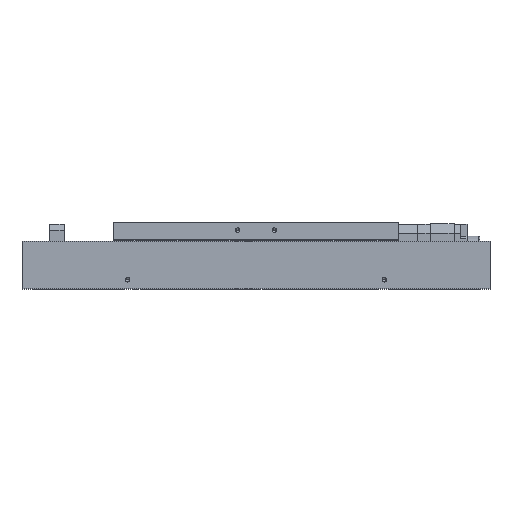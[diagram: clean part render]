
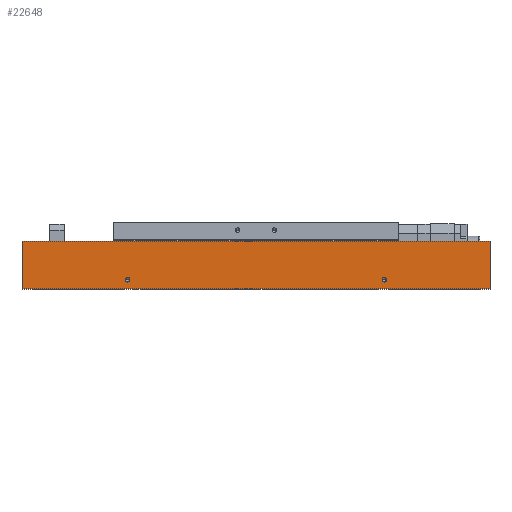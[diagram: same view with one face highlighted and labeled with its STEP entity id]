
A CAD part, top view. The second image highlights one B-rep face of the part: STEP entity #22648.
In plain terms, the highlighted planar face has unit normal (0, 0, 1).
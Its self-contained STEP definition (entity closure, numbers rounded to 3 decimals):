
#81 = CIRCLE ( 'NONE', #14168, 1.25 ) ;
#520 = LINE ( 'NONE', #19898, #3150 ) ;
#715 = VECTOR ( 'NONE', #7005, 1000. ) ;
#793 = LINE ( 'NONE', #4266, #4377 ) ;
#1438 = LINE ( 'NONE', #13865, #715 ) ;
#1738 = EDGE_CURVE ( 'NONE', #4581, #2709, #793, .T. ) ;
#1795 = CARTESIAN_POINT ( 'NONE',  ( -127.5, 26., 42.5 ) ) ;
#1905 = ORIENTED_EDGE ( 'NONE', *, *, #3421, .F. ) ;
#2102 = AXIS2_PLACEMENT_3D ( 'NONE', #1795, #5380, #14112 ) ;
#2709 = VERTEX_POINT ( 'NONE', #14194 ) ;
#3036 = EDGE_LOOP ( 'NONE', ( #20625, #19664 ) ) ;
#3150 = VECTOR ( 'NONE', #3997, 1000. ) ;
#3421 = EDGE_CURVE ( 'NONE', #11123, #17583, #4614, .T. ) ;
#3493 = EDGE_LOOP ( 'NONE', ( #14806, #1905 ) ) ;
#3668 = EDGE_CURVE ( 'NONE', #18551, #2709, #520, .T. ) ;
#3784 = CARTESIAN_POINT ( 'NONE',  ( -70., 5., 42.5 ) ) ;
#3934 = AXIS2_PLACEMENT_3D ( 'NONE', #20593, #18858, #10061 ) ;
#3997 = DIRECTION ( 'NONE',  ( 0., -1., 0. ) ) ;
#3998 = CARTESIAN_POINT ( 'NONE',  ( -127.5, 26., 42.5 ) ) ;
#4002 = CARTESIAN_POINT ( 'NONE',  ( 71.25, 5., 42.5 ) ) ;
#4266 = CARTESIAN_POINT ( 'NONE',  ( -127.5, 0., 42.5 ) ) ;
#4377 = VECTOR ( 'NONE', #18641, 1000. ) ;
#4581 = VERTEX_POINT ( 'NONE', #20402 ) ;
#4614 = CIRCLE ( 'NONE', #3934, 1.25 ) ;
#5050 = DIRECTION ( 'NONE',  ( 1., 0., 0. ) ) ;
#5163 = CARTESIAN_POINT ( 'NONE',  ( 70., 5., 42.5 ) ) ;
#5380 = DIRECTION ( 'NONE',  ( 0., 0., -1. ) ) ;
#5724 = CARTESIAN_POINT ( 'NONE',  ( -127.5, 26., 42.5 ) ) ;
#5752 = DIRECTION ( 'NONE',  ( 1., 0., 0. ) ) ;
#6080 = LINE ( 'NONE', #3998, #16533 ) ;
#6248 = EDGE_CURVE ( 'NONE', #6397, #18551, #1438, .T. ) ;
#6397 = VERTEX_POINT ( 'NONE', #5724 ) ;
#6605 = ORIENTED_EDGE ( 'NONE', *, *, #21187, .T. ) ;
#6842 = CARTESIAN_POINT ( 'NONE',  ( 127.5, 26., 42.5 ) ) ;
#7005 = DIRECTION ( 'NONE',  ( 1., 0., 0. ) ) ;
#7091 = CARTESIAN_POINT ( 'NONE',  ( -71.25, 5., 42.5 ) ) ;
#7237 = FACE_BOUND ( 'NONE', #3493, .T. ) ;
#7326 = CIRCLE ( 'NONE', #8080, 1.25 ) ;
#7342 = EDGE_CURVE ( 'NONE', #9221, #15928, #8131, .T. ) ;
#8080 = AXIS2_PLACEMENT_3D ( 'NONE', #3784, #17921, #5752 ) ;
#8131 = CIRCLE ( 'NONE', #19249, 1.25 ) ;
#8782 = FACE_BOUND ( 'NONE', #3036, .T. ) ;
#8871 = ORIENTED_EDGE ( 'NONE', *, *, #6248, .F. ) ;
#9151 = EDGE_CURVE ( 'NONE', #15928, #9221, #81, .T. ) ;
#9221 = VERTEX_POINT ( 'NONE', #4002 ) ;
#10061 = DIRECTION ( 'NONE',  ( 1., 0., 0. ) ) ;
#11123 = VERTEX_POINT ( 'NONE', #7091 ) ;
#11586 = CARTESIAN_POINT ( 'NONE',  ( 70., 5., 42.5 ) ) ;
#13299 = ORIENTED_EDGE ( 'NONE', *, *, #1738, .T. ) ;
#13641 = CARTESIAN_POINT ( 'NONE',  ( 68.75, 5., 42.5 ) ) ;
#13665 = EDGE_CURVE ( 'NONE', #17583, #11123, #7326, .T. ) ;
#13865 = CARTESIAN_POINT ( 'NONE',  ( -127.5, 26., 42.5 ) ) ;
#14112 = DIRECTION ( 'NONE',  ( -1., 0., 0. ) ) ;
#14168 = AXIS2_PLACEMENT_3D ( 'NONE', #5163, #22800, #5050 ) ;
#14194 = CARTESIAN_POINT ( 'NONE',  ( 127.5, 0., 42.5 ) ) ;
#14224 = FACE_OUTER_BOUND ( 'NONE', #15821, .T. ) ;
#14806 = ORIENTED_EDGE ( 'NONE', *, *, #13665, .F. ) ;
#15821 = EDGE_LOOP ( 'NONE', ( #13299, #16776, #8871, #6605 ) ) ;
#15928 = VERTEX_POINT ( 'NONE', #13641 ) ;
#16533 = VECTOR ( 'NONE', #18262, 1000. ) ;
#16776 = ORIENTED_EDGE ( 'NONE', *, *, #3668, .F. ) ;
#17507 = CARTESIAN_POINT ( 'NONE',  ( -68.75, 5., 42.5 ) ) ;
#17583 = VERTEX_POINT ( 'NONE', #17507 ) ;
#17921 = DIRECTION ( 'NONE',  ( 0., 0., 1. ) ) ;
#18262 = DIRECTION ( 'NONE',  ( 0., -1., 0. ) ) ;
#18551 = VERTEX_POINT ( 'NONE', #6842 ) ;
#18641 = DIRECTION ( 'NONE',  ( 1., 0., 0. ) ) ;
#18858 = DIRECTION ( 'NONE',  ( 0., 0., 1. ) ) ;
#19249 = AXIS2_PLACEMENT_3D ( 'NONE', #11586, #20386, #21781 ) ;
#19664 = ORIENTED_EDGE ( 'NONE', *, *, #9151, .F. ) ;
#19898 = CARTESIAN_POINT ( 'NONE',  ( 127.5, 26., 42.5 ) ) ;
#20386 = DIRECTION ( 'NONE',  ( 0., 0., 1. ) ) ;
#20402 = CARTESIAN_POINT ( 'NONE',  ( -127.5, 0., 42.5 ) ) ;
#20593 = CARTESIAN_POINT ( 'NONE',  ( -70., 5., 42.5 ) ) ;
#20625 = ORIENTED_EDGE ( 'NONE', *, *, #7342, .F. ) ;
#21187 = EDGE_CURVE ( 'NONE', #6397, #4581, #6080, .T. ) ;
#21389 = PLANE ( 'NONE',  #2102 ) ;
#21781 = DIRECTION ( 'NONE',  ( 1., 0., 0. ) ) ;
#22648 = ADVANCED_FACE ( 'NONE', ( #7237, #8782, #14224 ), #21389, .F. ) ;
#22800 = DIRECTION ( 'NONE',  ( 0., 0., 1. ) ) ;
